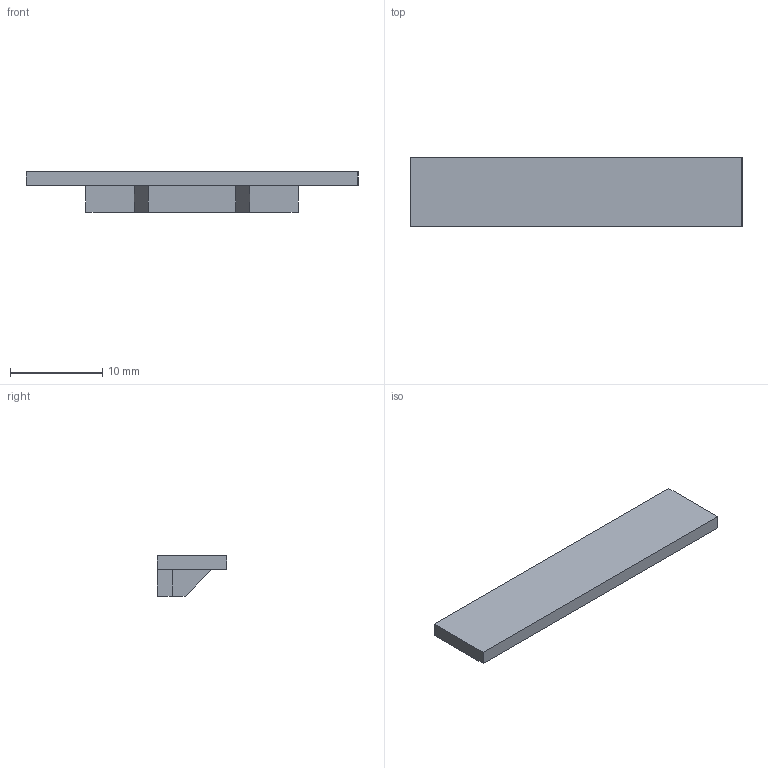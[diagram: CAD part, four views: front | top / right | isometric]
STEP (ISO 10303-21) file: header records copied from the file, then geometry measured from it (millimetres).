
FILE_DESCRIPTION(('STEP AP214'),'2;1');
FILE_NAME('092002.stp','2010-09-07T14:16:18',(''),(''),'2007.1.106','THINKDESIGN','');
FILE_SCHEMA(('AUTOMOTIVE_DESIGN'));
Length unit declared in the file: millimetre
Products named in the file (1): None
Bounding box: 36 x 7.5 x 4.4 mm (x, y, z)
Surface area: 855.6 mm2 (no closed solid volume)
Topology: 0 solids, 0 shells, 28 faces, 160 edges, 160 vertices
Faces by surface type: plane 25, bspline 3
Entity records: 1585 total; most frequent: CARTESIAN_POINT 357, DIRECTION 210, VECTOR 160, LINE 160, TRIMMED_CURVE 160, COMPOSITE_CURVE_SEGMENT 160, OUTER_BOUNDARY_CURVE 28, CURVE_BOUNDED_SURFACE 28
